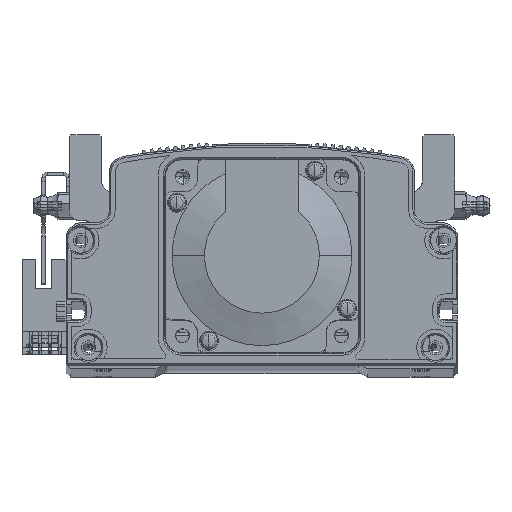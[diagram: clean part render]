
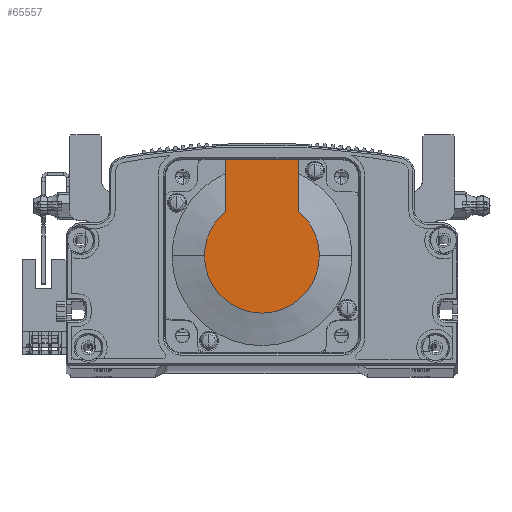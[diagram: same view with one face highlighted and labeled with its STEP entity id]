
A CAD part, top view. The second image highlights one B-rep face of the part: STEP entity #65557.
In plain terms, the highlighted planar face has unit normal (0, 0, 1) as drawn and (-1, 0, 0) by its records, which use the part's own axes.
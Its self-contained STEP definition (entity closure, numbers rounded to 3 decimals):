
#877 = CARTESIAN_POINT ( 'NONE',  ( -118.5, 0., 17.881 ) ) ;
#1001 = DIRECTION ( 'NONE',  ( -1., 0., 0. ) ) ;
#1766 = CARTESIAN_POINT ( 'NONE',  ( -118.5, 30., 25. ) ) ;
#5111 = EDGE_CURVE ( 'NONE', #15349, #32845, #57712, .T. ) ;
#5120 = EDGE_CURVE ( 'NONE', #73885, #35436, #37361, .T. ) ;
#11705 = LINE ( 'NONE', #49289, #38455 ) ;
#11824 = ORIENTED_EDGE ( 'NONE', *, *, #28100, .F. ) ;
#14112 = CARTESIAN_POINT ( 'NONE',  ( -118.5, 13.735, 11.45 ) ) ;
#14151 = ORIENTED_EDGE ( 'NONE', *, *, #14705, .T. ) ;
#14705 = EDGE_CURVE ( 'NONE', #35436, #15349, #83873, .T. ) ;
#15349 = VERTEX_POINT ( 'NONE', #877 ) ;
#16496 = VECTOR ( 'NONE', #46291, 1000. ) ;
#17983 = VECTOR ( 'NONE', #84358, 1000. ) ;
#19177 = EDGE_CURVE ( 'NONE', #19442, #39629, #72474, .T. ) ;
#19442 = VERTEX_POINT ( 'NONE', #64668 ) ;
#20578 = FACE_OUTER_BOUND ( 'NONE', #82824, .T. ) ;
#24985 = ORIENTED_EDGE ( 'NONE', *, *, #5111, .T. ) ;
#25622 = CARTESIAN_POINT ( 'NONE',  ( -118.5, 0., 11.45 ) ) ;
#28100 = EDGE_CURVE ( 'NONE', #39629, #32845, #37847, .T. ) ;
#30741 = ORIENTED_EDGE ( 'NONE', *, *, #19177, .F. ) ;
#32845 = VERTEX_POINT ( 'NONE', #14112 ) ;
#35436 = VERTEX_POINT ( 'NONE', #46258 ) ;
#35678 = AXIS2_PLACEMENT_3D ( 'NONE', #58616, #78863, #59210 ) ;
#36343 = EDGE_CURVE ( 'NONE', #19442, #73885, #11705, .T. ) ;
#37361 = CIRCLE ( 'NONE', #65613, 17.881 ) ;
#37847 = LINE ( 'NONE', #25622, #16496 ) ;
#38455 = VECTOR ( 'NONE', #48702, 1000. ) ;
#39629 = VERTEX_POINT ( 'NONE', #53576 ) ;
#42745 = DIRECTION ( 'NONE',  ( 0., 0., -1. ) ) ;
#43652 = DIRECTION ( 'NONE',  ( -1., 0., 0. ) ) ;
#46258 = CARTESIAN_POINT ( 'NONE',  ( -118.5, 0., -17.881 ) ) ;
#46291 = DIRECTION ( 'NONE',  ( 0., -1., 0. ) ) ;
#48702 = DIRECTION ( 'NONE',  ( 0., -1., 0. ) ) ;
#49289 = CARTESIAN_POINT ( 'NONE',  ( -118.5, -8.941, -11.45 ) ) ;
#50504 = CARTESIAN_POINT ( 'NONE',  ( -118.5, 0., 0. ) ) ;
#53576 = CARTESIAN_POINT ( 'NONE',  ( -118.5, 30., 11.45 ) ) ;
#57712 = CIRCLE ( 'NONE', #82715, 17.881 ) ;
#58139 = DIRECTION ( 'NONE',  ( -1., 0., 0. ) ) ;
#58409 = DIRECTION ( 'NONE',  ( 0., 0., 1. ) ) ;
#58616 = CARTESIAN_POINT ( 'NONE',  ( -118.5, 0., 0. ) ) ;
#59210 = DIRECTION ( 'NONE',  ( 0., 0., -1. ) ) ;
#61582 = ORIENTED_EDGE ( 'NONE', *, *, #5120, .T. ) ;
#63205 = AXIS2_PLACEMENT_3D ( 'NONE', #78100, #58139, #58409 ) ;
#64668 = CARTESIAN_POINT ( 'NONE',  ( -118.5, 30., -11.45 ) ) ;
#65540 = PLANE ( 'NONE',  #63205 ) ;
#65557 = ADVANCED_FACE ( 'NONE', ( #20578 ), #65540, .T. ) ;
#65613 = AXIS2_PLACEMENT_3D ( 'NONE', #50504, #43652, #42745 ) ;
#69716 = ORIENTED_EDGE ( 'NONE', *, *, #36343, .T. ) ;
#71984 = CARTESIAN_POINT ( 'NONE',  ( -118.5, 13.735, -11.45 ) ) ;
#72474 = LINE ( 'NONE', #1766, #17983 ) ;
#73885 = VERTEX_POINT ( 'NONE', #71984 ) ;
#76453 = DIRECTION ( 'NONE',  ( 0., 0., -1. ) ) ;
#78100 = CARTESIAN_POINT ( 'NONE',  ( -118.5, -8.941, 0. ) ) ;
#78863 = DIRECTION ( 'NONE',  ( -1., 0., 0. ) ) ;
#82699 = CARTESIAN_POINT ( 'NONE',  ( -118.5, 0., 0. ) ) ;
#82715 = AXIS2_PLACEMENT_3D ( 'NONE', #82699, #1001, #76453 ) ;
#82824 = EDGE_LOOP ( 'NONE', ( #69716, #61582, #14151, #24985, #11824, #30741 ) ) ;
#83873 = CIRCLE ( 'NONE', #35678, 17.881 ) ;
#84358 = DIRECTION ( 'NONE',  ( 0., 0., 1. ) ) ;
